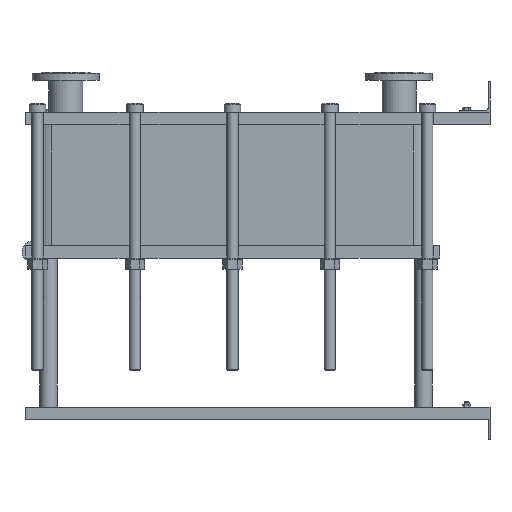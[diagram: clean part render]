
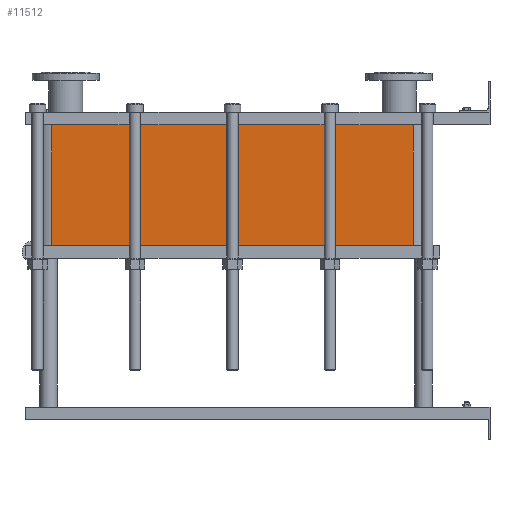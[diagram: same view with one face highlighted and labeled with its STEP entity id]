
A CAD part, left-side view. The second image highlights one B-rep face of the part: STEP entity #11512.
In plain terms, the highlighted planar face has unit normal (-1, 0, 0).
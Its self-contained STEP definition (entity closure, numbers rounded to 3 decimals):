
#1129=LINE('',#23232,#2102);
#1130=LINE('',#23236,#2103);
#1131=LINE('',#23238,#2104);
#1132=LINE('',#23239,#2105);
#2102=VECTOR('',#15887,10.);
#2103=VECTOR('',#15892,10.);
#2104=VECTOR('',#15893,10.);
#2105=VECTOR('',#15894,10.);
#3267=FACE_OUTER_BOUND('',#4093,.T.);
#4093=EDGE_LOOP('',(#10103,#10104,#10105,#10106));
#5642=VERTEX_POINT('',#23229);
#5643=VERTEX_POINT('',#23231);
#5644=VERTEX_POINT('',#23235);
#5645=VERTEX_POINT('',#23237);
#7159=EDGE_CURVE('',#5643,#5642,#1129,.T.);
#7161=EDGE_CURVE('',#5642,#5644,#1130,.T.);
#7162=EDGE_CURVE('',#5645,#5644,#1131,.T.);
#7163=EDGE_CURVE('',#5645,#5643,#1132,.T.);
#10103=ORIENTED_EDGE('',*,*,#7161,.T.);
#10104=ORIENTED_EDGE('',*,*,#7162,.F.);
#10105=ORIENTED_EDGE('',*,*,#7163,.T.);
#10106=ORIENTED_EDGE('',*,*,#7159,.T.);
#10857=PLANE('',#12751);
#11512=ADVANCED_FACE('',(#3267),#10857,.T.);
#12751=AXIS2_PLACEMENT_3D('',#23234,#15890,#15891);
#15887=DIRECTION('',(0.,0.,-1.));
#15890=DIRECTION('center_axis',(-1.,0.,0.));
#15891=DIRECTION('ref_axis',(0.,1.,0.));
#15892=DIRECTION('',(0.,-1.,0.));
#15893=DIRECTION('',(0.,0.,-1.));
#15894=DIRECTION('',(0.,1.,0.));
#23229=CARTESIAN_POINT('',(-200.,1414.,-389.85));
#23231=CARTESIAN_POINT('',(-200.,1414.,0.));
#23232=CARTESIAN_POINT('',(-200.,1414.,0.));
#23234=CARTESIAN_POINT('Origin',(-200.,248.,0.));
#23235=CARTESIAN_POINT('',(-200.,248.,-389.85));
#23236=CARTESIAN_POINT('',(-200.,539.5,-389.85));
#23237=CARTESIAN_POINT('',(-200.,248.,0.));
#23238=CARTESIAN_POINT('',(-200.,248.,0.));
#23239=CARTESIAN_POINT('',(-200.,248.,0.));
